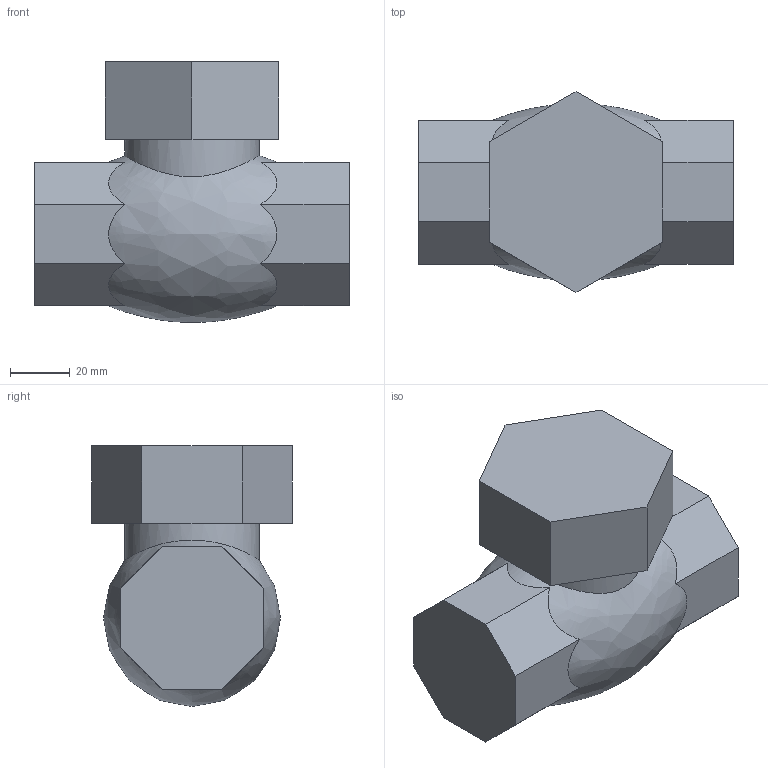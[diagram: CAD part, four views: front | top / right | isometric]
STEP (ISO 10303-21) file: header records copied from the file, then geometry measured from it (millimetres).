
FILE_DESCRIPTION(/* description */ (''),/* implementation_level */ '2;1');
FILE_NAME(/* name */ '25A.step',/* time_stamp */ '2023-12-08T09:29:29+09:00',/* author */ (''),/* organization */ (''),/* preprocessor_version */ 'ST-DEVELOPER v20',/* originating_system */ 'Autodesk Translation Framework v12.14.0.127',/* authorisation */ '');
FILE_SCHEMA (('AUTOMOTIVE_DESIGN { 1 0 10303 214 3 1 1 }'));
Length unit declared in the file: millimetre
Products named in the file (1): 25A
Bounding box: 105 x 66.97 x 87 mm (x, y, z)
Volume: 313392.4 mm3; surface area: 30532 mm2
Topology: 1 solids, 1 shells, 28 faces, 74 edges, 49 vertices
Faces by surface type: plane 26, bspline 1, cylinder 1
Full cylindrical faces by diameter (mm): 45 x1
Entity records: 1325 total; most frequent: CARTESIAN_POINT 643, ORIENTED_EDGE 148, DIRECTION 109, EDGE_CURVE 74, LINE 51, VECTOR 51, VERTEX_POINT 49, EDGE_LOOP 29
